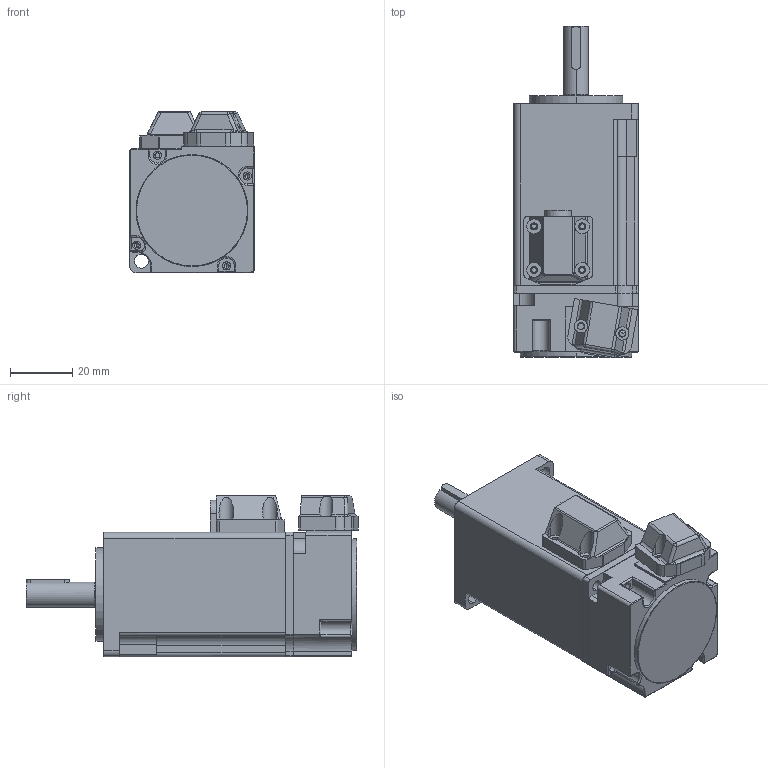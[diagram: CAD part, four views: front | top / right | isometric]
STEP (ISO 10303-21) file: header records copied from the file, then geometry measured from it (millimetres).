
FILE_DESCRIPTION (( 'STEP AP203' ), '1' );
FILE_NAME ('TSNA-04J0330A-48.STEP', '2023-02-27T01:18:28', ( '' ), ( '' ), 'SwSTEP 2.0', 'SolidWorks 2020', '' );
FILE_SCHEMA (( 'CONFIG_CONTROL_DESIGN' ));
Length unit declared in the file: millimetre
Products named in the file (8): ____.STEP; 40____________.STEP; __.STEP; 40____________-0.STEP; 3x14__.STEP; TSNA-04J0330A-48; S40-H58.5-002.STEP; 40____.STEP
Assembly tree (7 placements, depth 2):
  TSNA-04J0330A-48
    S40-H58.5-002.STEP
    40____________.STEP
    40____________-0.STEP
    40____.STEP
    ____.STEP
    __.STEP
    3x14__.STEP
Bounding box: 40.09 x 106.84 x 52.05 mm (x, y, z)
Volume: 59040.9 mm3; surface area: 39207.6 mm2
Topology: 7 solids, 7 shells, 476 faces, 1214 edges, 758 vertices
Faces by surface type: cylinder 243, plane 151, cone 38, bspline 34, torus 8, sphere 2
Entity records: 17106 total; most frequent: CARTESIAN_POINT 4806, DIRECTION 2438, ORIENTED_EDGE 2386, EDGE_CURVE 1193, AXIS2_PLACEMENT_3D 936, VERTEX_POINT 758, VECTOR 566, LINE 566
